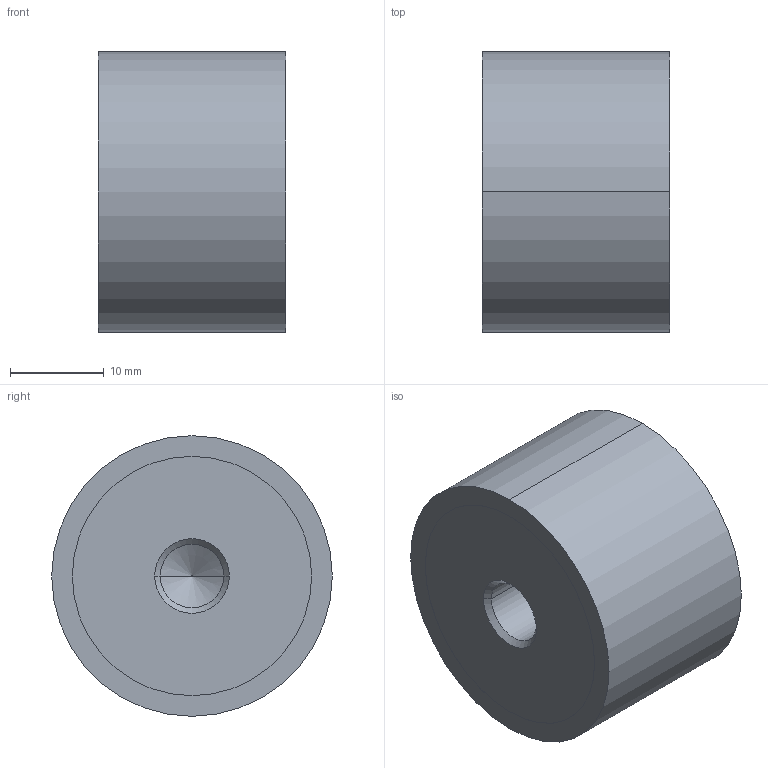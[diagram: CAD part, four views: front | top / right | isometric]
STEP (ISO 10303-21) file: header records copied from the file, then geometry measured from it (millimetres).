
FILE_DESCRIPTION (( 'STEP AP214' ), '1' );
FILE_NAME ('451-30-20-M8-EE-40.step', '2020-03-05T09:12:08', ( '' ), ( '' ), 'SwSTEP 2.0', 'SolidWorks 2019', '' );
FILE_SCHEMA (( 'AUTOMOTIVE_DESIGN' ));
Length unit declared in the file: millimetre
Products named in the file (1): 451-30-20-M8-EE-40
Bounding box: 20 x 30 x 30 mm (x, y, z)
Volume: 13489.2 mm3; surface area: 3639.9 mm2
Topology: 1 solids, 1 shells, 22 faces, 44 edges, 26 vertices
Faces by surface type: cylinder 10, cone 8, plane 4
Entity records: 700 total; most frequent: DIRECTION 116, CARTESIAN_POINT 93, ORIENTED_EDGE 88, AXIS2_PLACEMENT_3D 49, EDGE_CURVE 44, EDGE_LOOP 26, VERTEX_POINT 26, CIRCLE 26
